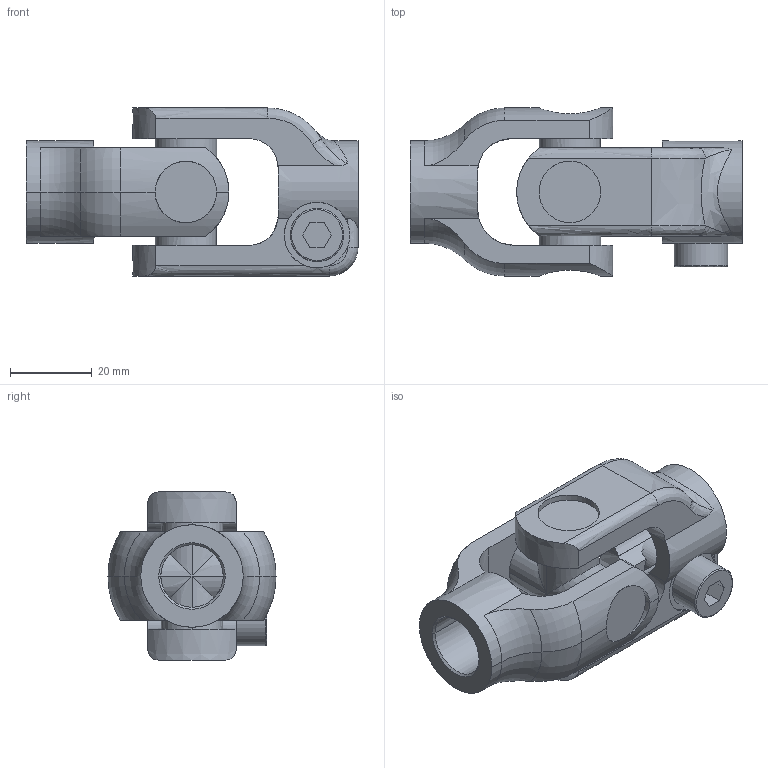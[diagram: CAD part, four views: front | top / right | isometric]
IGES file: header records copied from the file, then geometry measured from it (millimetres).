
Start section: START RECORD GO HERE.
Global section: file name: ZU30_UNIVERSAL_JOINT_BOLT-WELD.igs; native system: DASSAULT SYSTEMES CATIA Version 5-6 Release 2022 - www.3ds.com; preprocessor: V5-6R2022_5.32.4.0.02-23-2023.20.00; author: ARJ; organization: ARJ; date: 20260306.180151; units: millimetre
Bounding box: 81 x 41 x 41 mm (x, y, z)
Volume: 44094.7 mm3; surface area: 19572.2 mm2
Topology: 4 solids, 4 shells, 127 faces, 334 edges, 210 vertices
Faces by surface type: revolution 82, plane 42, bspline 3
